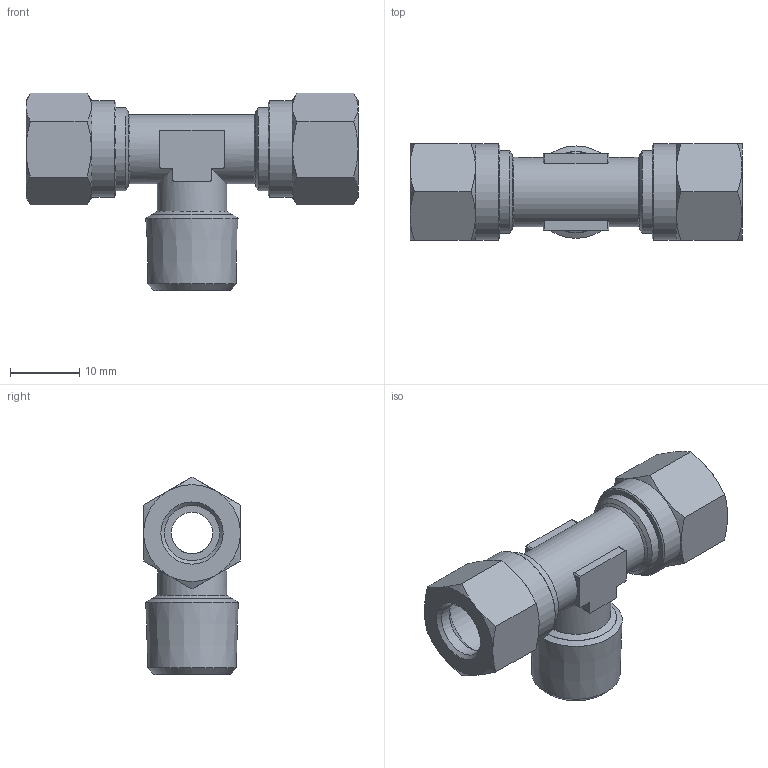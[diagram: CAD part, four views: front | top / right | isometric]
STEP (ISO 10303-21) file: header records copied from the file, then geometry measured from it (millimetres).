
FILE_DESCRIPTION(('Bauteilbeschreibung','HiCAD-Model','HiCAD-STEP-TRANSLATION','Bauteilbeschreibung'),'2;1');
FILE_NAME('B:/ABGLEICH/ZEICHNUNGEN/STEP FÜR INTERNET/STEP/207/92205_207_8_1-4.STP','2011-10-18T10:30:54+00:00',('Konstrukteur'),('Konstrukteur Firma GmbH'),' HiCAD neXt 2008, Step 3.1.1401.2J ','HiCAD neXt 2008','confidential');
FILE_SCHEMA(('AUTOMOTIVE_DESIGN { 1 2 10303 214 0 1 1 1 }'));
Length unit declared in the file: millimetre
Products named in the file (12): A2205_207_8_1_4; A6803; A68030; DIN 13_M12X1; A68031; A68032; DIN0130M12X1; A2205; A22050; R 1_4; DIN0130M12X10; DIN0130M12X11
Assembly tree (11 placements, depth 3):
  A2205_207_8_1_4
    A6803
    A68030
      DIN 13_M12X1
    A68031
    A68032
      DIN0130M12X1
    A2205
    A22050
      R 1_4
      DIN0130M12X10
      DIN0130M12X11
Bounding box: 48 x 14 x 28.58 mm (x, y, z)
Volume: 5121.5 mm3; surface area: 8592.5 mm2
Topology: 8 solids, 8 shells, 127 faces, 306 edges, 194 vertices
Faces by surface type: plane 47, cone 41, cylinder 39
Full cylindrical faces by diameter (mm): 6 x2, 8 x5, 10 x2, 10.773 x6, 12 x6, 13.9 x2
Entity records: 7353 total; most frequent: CARTESIAN_POINT 3411, DIRECTION 576, ORIENTED_EDGE 460, AXIS2_PLACEMENT_3D 253, EDGE_CURVE 230, COLOUR_RGB 218, PRESENTATION_STYLE_ASSIGNMENT 218, CURVE_STYLE 210
